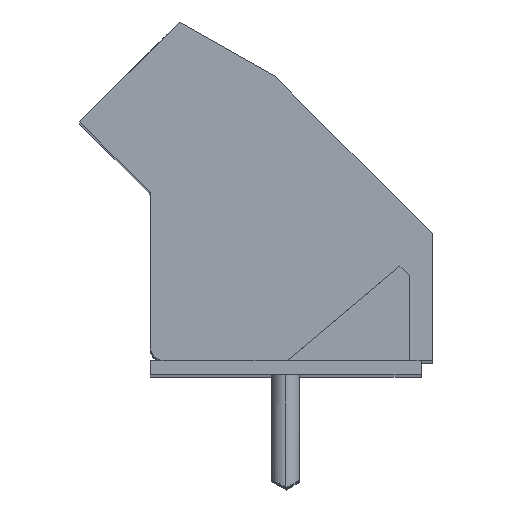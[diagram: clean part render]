
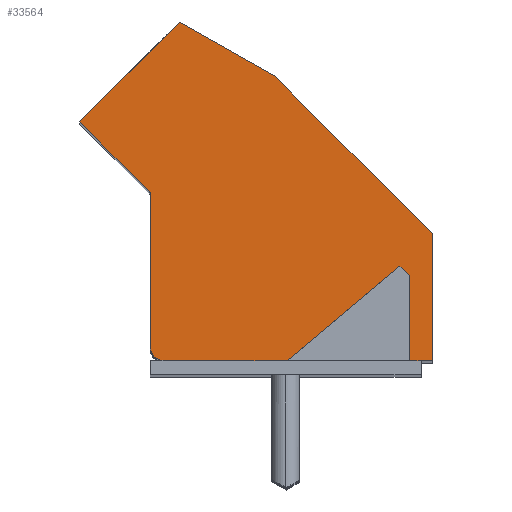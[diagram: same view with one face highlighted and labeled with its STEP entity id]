
A CAD part, top view. The second image highlights one B-rep face of the part: STEP entity #33564.
In plain terms, the highlighted planar face has unit normal (0, 0, 1).
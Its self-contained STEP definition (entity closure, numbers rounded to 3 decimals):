
#10895 = CARTESIAN_POINT ( 'NONE',  ( 10., 4.484, 0. ) ) ;
#17678 = CARTESIAN_POINT ( 'NONE',  ( -0.029, 5.978, 0. ) ) ;
#17679 = DIRECTION ( 'NONE',  ( 1., 0., 0. ) ) ;
#17680 = DIRECTION ( 'NONE',  ( 0., 0., 1. ) ) ;
#17681 = CARTESIAN_POINT ( 'NONE',  ( -0.1, 5.907, 0. ) ) ;
#17682 = AXIS2_PLACEMENT_3D ( 'NONE', #17681, #17680, #17679 ) ;
#17683 = CIRCLE ( 'NONE', #17682, 0.1 ) ;
#17684 = CARTESIAN_POINT ( 'NONE',  ( 0., 5.907, 0. ) ) ;
#17908 = DIRECTION ( 'NONE',  ( -0.707, 0.707, 0. ) ) ;
#17909 = VECTOR ( 'NONE', #17908, 1000. ) ;
#17910 = CARTESIAN_POINT ( 'NONE',  ( 10., 4.484, 0. ) ) ;
#17911 = LINE ( 'NONE', #17910, #17909 ) ;
#17912 = CARTESIAN_POINT ( 'NONE',  ( 4.411, 10.073, 0. ) ) ;
#17947 = CARTESIAN_POINT ( 'NONE',  ( 9.2, -0.016, 0. ) ) ;
#17948 = CARTESIAN_POINT ( 'NONE',  ( 9.2, 2.984, 0. ) ) ;
#17949 = DIRECTION ( 'NONE',  ( 0., -1., 0. ) ) ;
#17950 = VECTOR ( 'NONE', #17949, 1000. ) ;
#17951 = CARTESIAN_POINT ( 'NONE',  ( 9.2, 6.02, 0. ) ) ;
#17952 = LINE ( 'NONE', #17951, #17950 ) ;
#18039 = DIRECTION ( 'NONE',  ( 0.707, -0.707, 0. ) ) ;
#18040 = VECTOR ( 'NONE', #18039, 1000. ) ;
#18041 = CARTESIAN_POINT ( 'NONE',  ( 8.85, 3.334, 0. ) ) ;
#18042 = LINE ( 'NONE', #18041, #18040 ) ;
#18063 = CARTESIAN_POINT ( 'NONE',  ( 8.85, 3.334, 0. ) ) ;
#18064 = CARTESIAN_POINT ( 'NONE',  ( 4.858, -0.016, 0. ) ) ;
#18065 = DIRECTION ( 'NONE',  ( 0.766, 0.643, 0. ) ) ;
#18066 = VECTOR ( 'NONE', #18065, 1000. ) ;
#18067 = CARTESIAN_POINT ( 'NONE',  ( 4.858, -0.016, 0. ) ) ;
#18068 = LINE ( 'NONE', #18067, #18066 ) ;
#18402 = CARTESIAN_POINT ( 'NONE',  ( 0., 0.484, 0. ) ) ;
#18403 = LINE ( 'NONE', #18468, #18467 ) ;
#18466 = DIRECTION ( 'NONE',  ( 0., -1., 0. ) ) ;
#18467 = VECTOR ( 'NONE', #18466, 1000. ) ;
#18468 = CARTESIAN_POINT ( 'NONE',  ( 0., 6.02, 0. ) ) ;
#18588 = CARTESIAN_POINT ( 'NONE',  ( 1.036, 11.984, 0. ) ) ;
#18605 = DIRECTION ( 'NONE',  ( -0.87, 0.493, 0. ) ) ;
#18606 = VECTOR ( 'NONE', #18605, 1000. ) ;
#18607 = CARTESIAN_POINT ( 'NONE',  ( 4.411, 10.073, 0. ) ) ;
#18608 = LINE ( 'NONE', #18607, #18606 ) ;
#18821 = CARTESIAN_POINT ( 'NONE',  ( -2.5, 8.448, 0. ) ) ;
#18887 = DIRECTION ( 'NONE',  ( -0.707, -0.707, 0. ) ) ;
#18889 = VECTOR ( 'NONE', #18887, 1000. ) ;
#18890 = CARTESIAN_POINT ( 'NONE',  ( 1.036, 11.984, 0. ) ) ;
#18891 = LINE ( 'NONE', #18890, #18889 ) ;
#18894 = DIRECTION ( 'NONE',  ( 0.707, -0.707, 0. ) ) ;
#18895 = VECTOR ( 'NONE', #18894, 1000. ) ;
#18896 = CARTESIAN_POINT ( 'NONE',  ( -2.5, 8.448, 0. ) ) ;
#18897 = LINE ( 'NONE', #18896, #18895 ) ;
#19086 = FACE_OUTER_BOUND ( 'NONE', #33566, .T. ) ;
#19149 = DIRECTION ( 'NONE',  ( 1., 0., 0. ) ) ;
#19150 = DIRECTION ( 'NONE',  ( 0., 0., 1. ) ) ;
#19151 = CARTESIAN_POINT ( 'NONE',  ( -2.575, -0.016, 0. ) ) ;
#19152 = AXIS2_PLACEMENT_3D ( 'NONE', #19151, #19150, #19149 ) ;
#19153 = PLANE ( 'NONE',  #19152 ) ;
#19173 = DIRECTION ( 'NONE',  ( -1., 0., 0. ) ) ;
#19174 = DIRECTION ( 'NONE',  ( 0., 0., 1. ) ) ;
#19175 = CARTESIAN_POINT ( 'NONE',  ( 0.5, 0.484, 0. ) ) ;
#19176 = AXIS2_PLACEMENT_3D ( 'NONE', #19175, #19174, #19173 ) ;
#19177 = CIRCLE ( 'NONE', #19176, 0.5 ) ;
#19185 = CARTESIAN_POINT ( 'NONE',  ( 0.5, -0.016, 0. ) ) ;
#19199 = DIRECTION ( 'NONE',  ( 0., 1., 0. ) ) ;
#19200 = VECTOR ( 'NONE', #19199, 1000. ) ;
#19201 = CARTESIAN_POINT ( 'NONE',  ( 10., 2.234, 0. ) ) ;
#19202 = LINE ( 'NONE', #19201, #19200 ) ;
#19209 = CARTESIAN_POINT ( 'NONE',  ( 10., -0.016, 0. ) ) ;
#19210 = DIRECTION ( 'NONE',  ( 1., 0., 0. ) ) ;
#19211 = VECTOR ( 'NONE', #19210, 1000. ) ;
#19212 = CARTESIAN_POINT ( 'NONE',  ( 3.713, -0.016, 0. ) ) ;
#19213 = LINE ( 'NONE', #19212, #19211 ) ;
#19262 = DIRECTION ( 'NONE',  ( 1., 0., 0. ) ) ;
#19263 = VECTOR ( 'NONE', #19262, 1000. ) ;
#19264 = CARTESIAN_POINT ( 'NONE',  ( 5.25, -0.016, 0. ) ) ;
#19265 = LINE ( 'NONE', #19264, #19263 ) ;
#29753 = VERTEX_POINT ( 'NONE', #10895 ) ;
#32620 = VERTEX_POINT ( 'NONE', #17684 ) ;
#32622 = EDGE_CURVE ( 'NONE', #32620, #32623, #17683, .T. ) ;
#32623 = VERTEX_POINT ( 'NONE', #17678 ) ;
#32718 = VERTEX_POINT ( 'NONE', #17912 ) ;
#32720 = EDGE_CURVE ( 'NONE', #29753, #32718, #17911, .T. ) ;
#32724 = EDGE_CURVE ( 'NONE', #32725, #32726, #17952, .T. ) ;
#32725 = VERTEX_POINT ( 'NONE', #17948 ) ;
#32726 = VERTEX_POINT ( 'NONE', #17947 ) ;
#32771 = EDGE_CURVE ( 'NONE', #32794, #32725, #18042, .T. ) ;
#32792 = EDGE_CURVE ( 'NONE', #32793, #32794, #18068, .T. ) ;
#32793 = VERTEX_POINT ( 'NONE', #18064 ) ;
#32794 = VERTEX_POINT ( 'NONE', #18063 ) ;
#33040 = VERTEX_POINT ( 'NONE', #18402 ) ;
#33042 = EDGE_CURVE ( 'NONE', #32620, #33040, #18403, .T. ) ;
#33123 = VERTEX_POINT ( 'NONE', #18588 ) ;
#33193 = EDGE_CURVE ( 'NONE', #32718, #33123, #18608, .T. ) ;
#33403 = VERTEX_POINT ( 'NONE', #18821 ) ;
#33408 = EDGE_CURVE ( 'NONE', #33123, #33403, #18891, .T. ) ;
#33444 = EDGE_CURVE ( 'NONE', #33403, #32623, #18897, .T. ) ;
#33564 = ADVANCED_FACE ( 'NONE', ( #19086 ), #19153, .T. ) ;
#33566 = EDGE_LOOP ( 'NONE', ( #33597, #33600, #33603, #33605, #33610, #33615, #33617, #33620, #33621, #33656, #33658, #33661, #33663 ) ) ;
#33581 = VERTEX_POINT ( 'NONE', #19185 ) ;
#33587 = EDGE_CURVE ( 'NONE', #33040, #33581, #19177, .T. ) ;
#33597 = ORIENTED_EDGE ( 'NONE', *, *, #32792, .T. ) ;
#33600 = ORIENTED_EDGE ( 'NONE', *, *, #32771, .T. ) ;
#33603 = ORIENTED_EDGE ( 'NONE', *, *, #32724, .T. ) ;
#33605 = ORIENTED_EDGE ( 'NONE', *, *, #33607, .T. ) ;
#33607 = EDGE_CURVE ( 'NONE', #32726, #33608, #19213, .T. ) ;
#33608 = VERTEX_POINT ( 'NONE', #19209 ) ;
#33610 = ORIENTED_EDGE ( 'NONE', *, *, #33613, .T. ) ;
#33613 = EDGE_CURVE ( 'NONE', #33608, #29753, #19202, .T. ) ;
#33615 = ORIENTED_EDGE ( 'NONE', *, *, #32720, .T. ) ;
#33617 = ORIENTED_EDGE ( 'NONE', *, *, #33193, .T. ) ;
#33620 = ORIENTED_EDGE ( 'NONE', *, *, #33408, .T. ) ;
#33621 = ORIENTED_EDGE ( 'NONE', *, *, #33444, .T. ) ;
#33656 = ORIENTED_EDGE ( 'NONE', *, *, #32622, .F. ) ;
#33658 = ORIENTED_EDGE ( 'NONE', *, *, #33042, .T. ) ;
#33661 = ORIENTED_EDGE ( 'NONE', *, *, #33587, .T. ) ;
#33663 = ORIENTED_EDGE ( 'NONE', *, *, #33667, .T. ) ;
#33667 = EDGE_CURVE ( 'NONE', #33581, #32793, #19265, .T. ) ;
